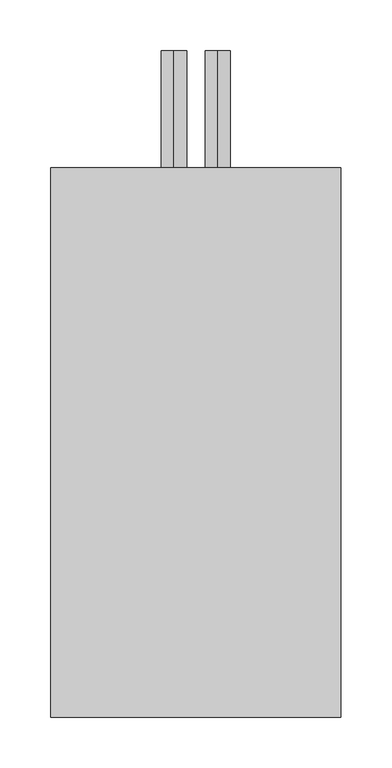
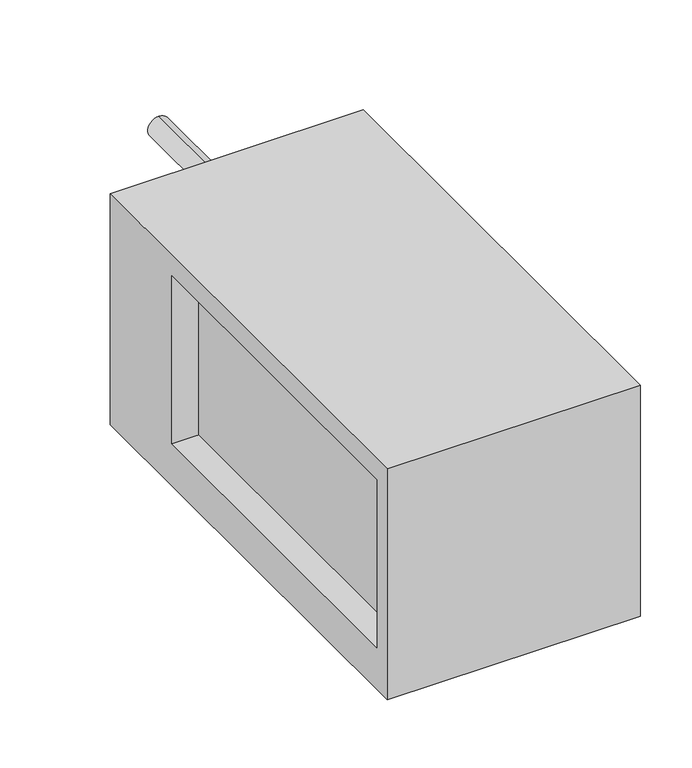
"""IFC4 building model written with IfcOpenShell, lengths in millimetres: proxy geometry, СВ_ВоздухоохладительВодяной_КанальныйПрямоугольный_200-1000_SPC-W : SPC-W-400x200-L."""

from ifc_helpers import new_model, si_unit, point, frame, frame_2d, origin, place, context, project, spatial, polyline, circle_curve, trimmed, segment, composite_curve, outline, extrude, source, transform, mapped, element, save


def mechanical_equipment_c4efd2f7(model_context):
    return source(origin(), model_context, "Body", "SweptSolid", [
        extrude(outline(polyline([(-220.0, -150.0), (-220.0, 125.0), (320.0, 125.0), (320.0, -150.0), (-220.0, -150.0)]), holes=[polyline([(-200.0, 100.0), (-200.0, -100.0), (200.0, -100.0), (200.0, 100.0), (-200.0, 100.0)])]), frame((-142.5, 0.0, 0.0), z_axis=(1.0, 0.0, 0.0), x_axis=(0.0, 1.0, 0.0)), (0.0, 0.0, 1.0), 285.0),
        extrude(outline(composite_curve([segment(trimmed(circle_curve(frame_2d((-92.5, 21.5)), 12.5), [point((-105.0, 21.5))], [point((-80.0, 21.5))], False, "CARTESIAN"), True, "CONTINUOUS"), segment(trimmed(circle_curve(frame_2d((-92.5, 21.5)), 12.5), [point((-80.0, 21.5))], [point((-105.0, 21.5))], False, "CARTESIAN"), True, "CONTINUOUS")], self_intersect=False)), frame((0.0, 320.0, 0.0), z_axis=(0.0, 1.0, 0.0), x_axis=(0.0, 0.0, 1.0)), (0.0, 0.0, 1.0), 115.0),
        extrude(outline(composite_curve([segment(trimmed(circle_curve(frame_2d((92.5, -21.5)), 12.5), [point((80.0, -21.5))], [point((105.0, -21.5))], False, "CARTESIAN"), True, "CONTINUOUS"), segment(trimmed(circle_curve(frame_2d((92.5, -21.5)), 12.5), [point((105.0, -21.5))], [point((80.0, -21.5))], False, "CARTESIAN"), True, "CONTINUOUS")], self_intersect=False)), frame((0.0, 320.0, 0.0), z_axis=(0.0, 1.0, 0.0), x_axis=(0.0, 0.0, 1.0)), (0.0, 0.0, 1.0), 115.0),
        extrude(outline(composite_curve([segment(trimmed(circle_curve(frame_2d((0.0, 280.0)), 11.0), [point((-11.0, 280.0))], [point((11.0, 280.0))], False, "CARTESIAN"), True, "CONTINUOUS"), segment(trimmed(circle_curve(frame_2d((0.0, 280.0)), 11.0), [point((11.0, 280.0))], [point((-11.0, 280.0))], False, "CARTESIAN"), True, "CONTINUOUS")], self_intersect=False)), frame((0.0, 0.0, -170.0), z_axis=(0.0, 0.0, 1.0), x_axis=(1.0, 0.0, 0.0)), (0.0, 0.0, 1.0), 20.0),
        extrude(outline(polyline([(112.5, 200.0), (112.5, -200.0), (-112.5, -200.0), (-112.5, 200.0), (112.5, 200.0)])), frame((0.0, 0.0, -100.0), z_axis=(0.0, 0.0, 1.0), x_axis=(1.0, 0.0, 0.0)), (0.0, 0.0, 1.0), 200.0),
    ])


if __name__ == "__main__":
    model = new_model("IFC4")
    model_context = context("Model", 3, world=origin())
    ifc_project = project(units=[si_unit("LENGTHUNIT", "METRE", prefix="MILLI")], contexts=[model_context])
    site = spatial("IfcSite", under=ifc_project)
    building = spatial("IfcBuilding", under=site)
    placement = place(None, origin())
    mechanical_equipment_shape = mechanical_equipment_c4efd2f7(model_context)
    element("IfcBuildingElementProxy", 1, Name="СВ_ВоздухоохладительВодяной_КанальныйПрямоугольный_200-1000_SPC-W : SPC-W-400x200-L", ObjectType="СВ_ВоздухоохладительВодяной_КанальныйПрямоугольный_200-1000_SPC-W : SPC-W-400x200-L", at=placement, inside=building, context=model_context, shape_type="MappedRepresentation", body=[
        mapped(mechanical_equipment_shape, transform((0.0, 0.0, 0.0), x_axis=(1.0, 0.0, 0.0), y_axis=(0.0, 1.0, 0.0), z_axis=(0.0, 0.0, 1.0))),
    ])
    save(model, "model.ifc")
